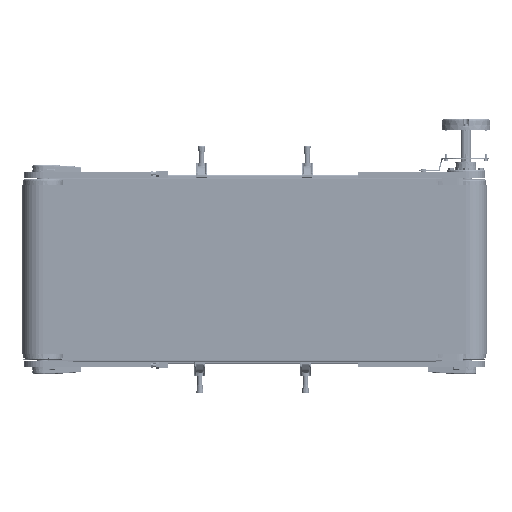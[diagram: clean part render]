
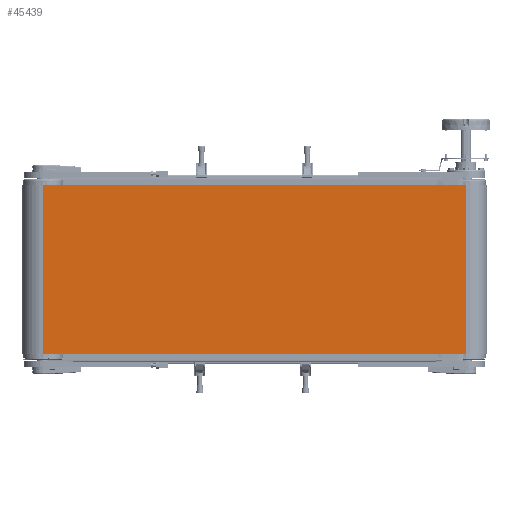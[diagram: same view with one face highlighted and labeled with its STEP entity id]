
A CAD part, front view. The second image highlights one B-rep face of the part: STEP entity #45439.
In plain terms, the highlighted planar face has unit normal (0, -1, 0).
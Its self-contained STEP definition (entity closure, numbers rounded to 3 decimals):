
#3756 = DIRECTION ( 'NONE',  ( 0., 0., -1. ) ) ;
#6479 = CARTESIAN_POINT ( 'NONE',  ( 500., -49.5, 200. ) ) ;
#7101 = DIRECTION ( 'NONE',  ( 0., 0., 1. ) ) ;
#13837 = ORIENTED_EDGE ( 'NONE', *, *, #75926, .T. ) ;
#15154 = VECTOR ( 'NONE', #114027, 1000. ) ;
#18434 = PLANE ( 'NONE',  #79546 ) ;
#19129 = CARTESIAN_POINT ( 'NONE',  ( -500., -49.5, 200. ) ) ;
#22558 = EDGE_LOOP ( 'NONE', ( #36382, #94685, #38189, #13837 ) ) ;
#22743 = LINE ( 'NONE', #65961, #15154 ) ;
#24584 = LINE ( 'NONE', #89752, #117843 ) ;
#28480 = DIRECTION ( 'NONE',  ( 0., 0., -1. ) ) ;
#35223 = DIRECTION ( 'NONE',  ( 1., 0., 0. ) ) ;
#36382 = ORIENTED_EDGE ( 'NONE', *, *, #125013, .T. ) ;
#38189 = ORIENTED_EDGE ( 'NONE', *, *, #53430, .F. ) ;
#45439 = ADVANCED_FACE ( 'NONE', ( #136683 ), #18434, .F. ) ;
#53430 = EDGE_CURVE ( 'NONE', #89148, #74704, #24584, .T. ) ;
#65961 = CARTESIAN_POINT ( 'NONE',  ( -500., -49.5, -200. ) ) ;
#74704 = VERTEX_POINT ( 'NONE', #6479 ) ;
#75926 = EDGE_CURVE ( 'NONE', #89148, #114595, #82298, .T. ) ;
#77452 = LINE ( 'NONE', #100788, #114527 ) ;
#79546 = AXIS2_PLACEMENT_3D ( 'NONE', #19129, #94926, #7101 ) ;
#82298 = LINE ( 'NONE', #125446, #106948 ) ;
#89148 = VERTEX_POINT ( 'NONE', #114731 ) ;
#89752 = CARTESIAN_POINT ( 'NONE',  ( -500., -49.5, 200. ) ) ;
#94685 = ORIENTED_EDGE ( 'NONE', *, *, #124520, .F. ) ;
#94926 = DIRECTION ( 'NONE',  ( 0., 1., 0. ) ) ;
#99530 = CARTESIAN_POINT ( 'NONE',  ( -500., -49.5, -200. ) ) ;
#100788 = CARTESIAN_POINT ( 'NONE',  ( 500., -49.5, 200. ) ) ;
#105735 = VERTEX_POINT ( 'NONE', #136895 ) ;
#106948 = VECTOR ( 'NONE', #28480, 1000. ) ;
#114027 = DIRECTION ( 'NONE',  ( 1., 0., 0. ) ) ;
#114527 = VECTOR ( 'NONE', #3756, 1000. ) ;
#114595 = VERTEX_POINT ( 'NONE', #99530 ) ;
#114731 = CARTESIAN_POINT ( 'NONE',  ( -500., -49.5, 200. ) ) ;
#117843 = VECTOR ( 'NONE', #35223, 1000. ) ;
#124520 = EDGE_CURVE ( 'NONE', #74704, #105735, #77452, .T. ) ;
#125013 = EDGE_CURVE ( 'NONE', #114595, #105735, #22743, .T. ) ;
#125446 = CARTESIAN_POINT ( 'NONE',  ( -500., -49.5, 200. ) ) ;
#136683 = FACE_OUTER_BOUND ( 'NONE', #22558, .T. ) ;
#136895 = CARTESIAN_POINT ( 'NONE',  ( 500., -49.5, -200. ) ) ;
